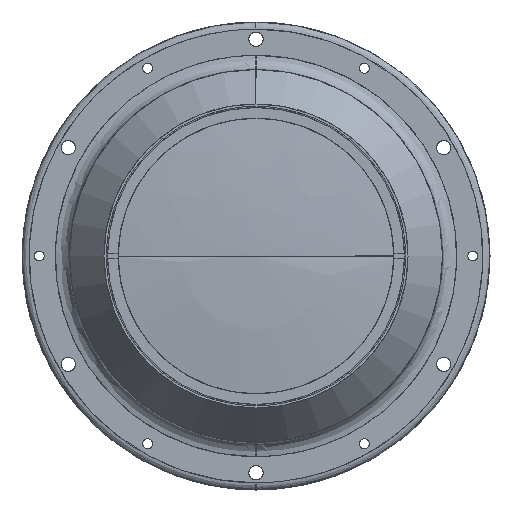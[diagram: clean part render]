
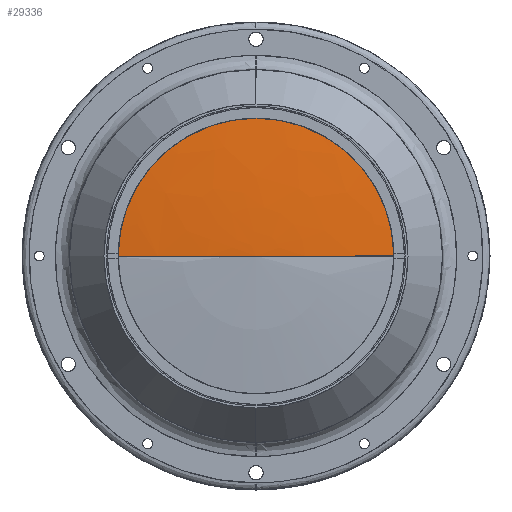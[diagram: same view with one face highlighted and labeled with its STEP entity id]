
A CAD part, left-side view. The second image highlights one B-rep face of the part: STEP entity #29336.
In plain terms, the highlighted face is a revolution surface.
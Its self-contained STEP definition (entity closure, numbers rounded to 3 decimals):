
#29336 = ADVANCED_FACE('',(#29337),#29352,.T.);
#29337 = FACE_BOUND('',#29338,.T.);
#29338 = EDGE_LOOP('',(#29339,#29366,#29382));
#29339 = ORIENTED_EDGE('',*,*,#29340,.F.);
#29340 = EDGE_CURVE('',#29341,#29343,#29345,.T.);
#29341 = VERTEX_POINT('',#29342);
#29342 = CARTESIAN_POINT('',(-22.533,-62.,
    0.));
#29343 = VERTEX_POINT('',#29344);
#29344 = CARTESIAN_POINT('',(-22.533,62.,
    0.));
#29345 = SURFACE_CURVE('',#29346,(#29351),.PCURVE_S1.);
#29346 = CIRCLE('',#29347,62.);
#29347 = AXIS2_PLACEMENT_3D('',#29348,#29349,#29350);
#29348 = CARTESIAN_POINT('',(-22.533,0.,
    0.));
#29349 = DIRECTION('',(-1.,0.,0.));
#29350 = DIRECTION('',(0.,-1.,0.));
#29351 = PCURVE('',#29352,#29361);
#29352 = SURFACE_OF_REVOLUTION('',#29353,#29358);
#29353 = CIRCLE('',#29354,606.5);
#29354 = AXIS2_PLACEMENT_3D('',#29355,#29356,#29357);
#29355 = CARTESIAN_POINT('',(580.79,0.,
    0.));
#29356 = DIRECTION('',(0.,0.,-1.));
#29357 = DIRECTION('',(-1.,0.,0.));
#29358 = AXIS1_PLACEMENT('',#29359,#29360);
#29359 = CARTESIAN_POINT('',(580.79,0.,0.));
#29360 = DIRECTION('',(-1.,0.,0.));
#29361 = DEFINITIONAL_REPRESENTATION('',(#29362),#29365);
#29362 = B_SPLINE_CURVE_WITH_KNOTS('',1,(#29363,#29364),.UNSPECIFIED.,
  .F.,.F.,(2,2),(0.,3.142),
  .PIECEWISE_BEZIER_KNOTS.);
#29363 = CARTESIAN_POINT('',(3.142,0.102));
#29364 = CARTESIAN_POINT('',(6.283,0.102));
#29365 = ( GEOMETRIC_REPRESENTATION_CONTEXT(2) 
PARAMETRIC_REPRESENTATION_CONTEXT() REPRESENTATION_CONTEXT('',''
  ) );
#29366 = ORIENTED_EDGE('',*,*,#29367,.F.);
#29367 = EDGE_CURVE('',#29368,#29341,#29370,.T.);
#29368 = VERTEX_POINT('',#29369);
#29369 = CARTESIAN_POINT('',(-25.71,0.,0.));
#29370 = SURFACE_CURVE('',#29371,(#29376),.PCURVE_S1.);
#29371 = CIRCLE('',#29372,606.5);
#29372 = AXIS2_PLACEMENT_3D('',#29373,#29374,#29375);
#29373 = CARTESIAN_POINT('',(580.79,0.,0.));
#29374 = DIRECTION('',(0.,0.,1.));
#29375 = DIRECTION('',(1.,0.,-0.));
#29376 = PCURVE('',#29352,#29377);
#29377 = DEFINITIONAL_REPRESENTATION('',(#29378),#29381);
#29378 = B_SPLINE_CURVE_WITH_KNOTS('',1,(#29379,#29380),.UNSPECIFIED.,
  .F.,.F.,(2,2),(3.142,3.244),
  .PIECEWISE_BEZIER_KNOTS.);
#29379 = CARTESIAN_POINT('',(3.142,0.));
#29380 = CARTESIAN_POINT('',(3.142,0.102));
#29381 = ( GEOMETRIC_REPRESENTATION_CONTEXT(2) 
PARAMETRIC_REPRESENTATION_CONTEXT() REPRESENTATION_CONTEXT('',''
  ) );
#29382 = ORIENTED_EDGE('',*,*,#29383,.F.);
#29383 = EDGE_CURVE('',#29343,#29368,#29384,.T.);
#29384 = SURFACE_CURVE('',#29385,(#29390),.PCURVE_S1.);
#29385 = CIRCLE('',#29386,606.5);
#29386 = AXIS2_PLACEMENT_3D('',#29387,#29388,#29389);
#29387 = CARTESIAN_POINT('',(580.79,0.,0.));
#29388 = DIRECTION('',(0.,0.,1.));
#29389 = DIRECTION('',(1.,0.,-0.));
#29390 = PCURVE('',#29352,#29391);
#29391 = DEFINITIONAL_REPRESENTATION('',(#29392),#29395);
#29392 = B_SPLINE_CURVE_WITH_KNOTS('',1,(#29393,#29394),.UNSPECIFIED.,
  .F.,.F.,(2,2),(3.039,3.142),
  .PIECEWISE_BEZIER_KNOTS.);
#29393 = CARTESIAN_POINT('',(6.283,0.102));
#29394 = CARTESIAN_POINT('',(6.283,0.));
#29395 = ( GEOMETRIC_REPRESENTATION_CONTEXT(2) 
PARAMETRIC_REPRESENTATION_CONTEXT() REPRESENTATION_CONTEXT('',''
  ) );
